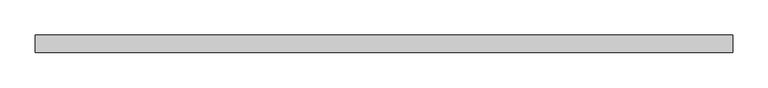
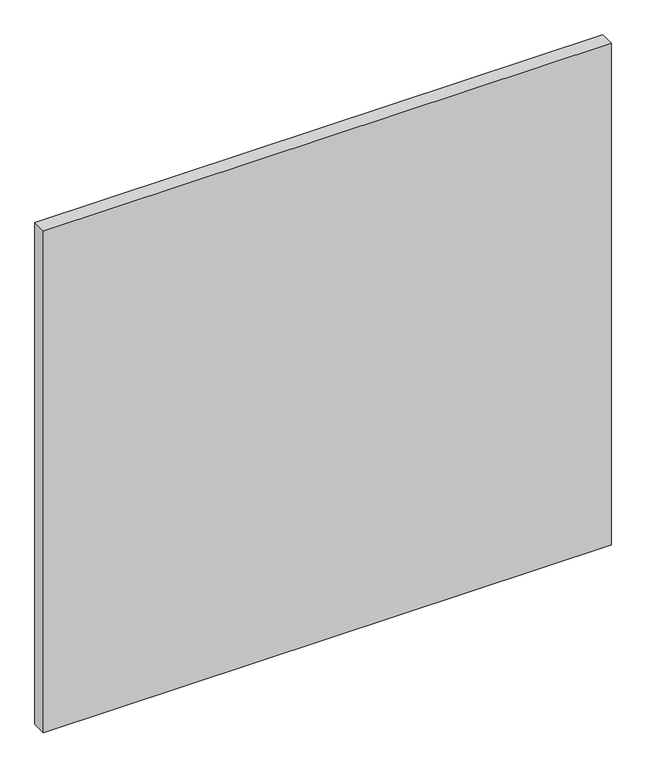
"""IFC4 building model written with IfcOpenShell, lengths in millimetres: plate geometry, Системная панель : ADSK_Cтеклопакет_25."""

from ifc_helpers import new_model, si_unit, origin, origin_with_axes, place, context, project, spatial, polyline, outline, extrude, source, transform, mapped, element, save


def plate_a6d17f0d(model_context):
    return source(origin(), model_context, "Body", "SweptSolid", [
        extrude(outline(polyline([(495.0, -12.5), (-495.0, -12.5), (-495.0, 12.5), (495.0, 12.5), (495.0, -12.5)])), origin_with_axes(), (0.0, 0.0, 1.0), 925.0),
    ])


if __name__ == "__main__":
    model = new_model("IFC4")
    model_context = context("Model", 3, world=origin())
    ifc_project = project(units=[si_unit("LENGTHUNIT", "METRE", prefix="MILLI")], contexts=[model_context])
    site = spatial("IfcSite", under=ifc_project)
    building = spatial("IfcBuilding", under=site)
    placement = place(None, origin())
    plate_shape = plate_a6d17f0d(model_context)
    element("IfcPlate", 1, ObjectType="Системная панель : ADSK_Cтеклопакет_25", at=placement, inside=building, context=model_context, shape_type="MappedRepresentation", body=[
        mapped(plate_shape, transform((0.0, 0.0, 0.0), x_axis=(1.0, 0.0, 0.0), y_axis=(0.0, 1.0, 0.0), z_axis=(0.0, 0.0, 1.0))),
    ])
    save(model, "model.ifc")
